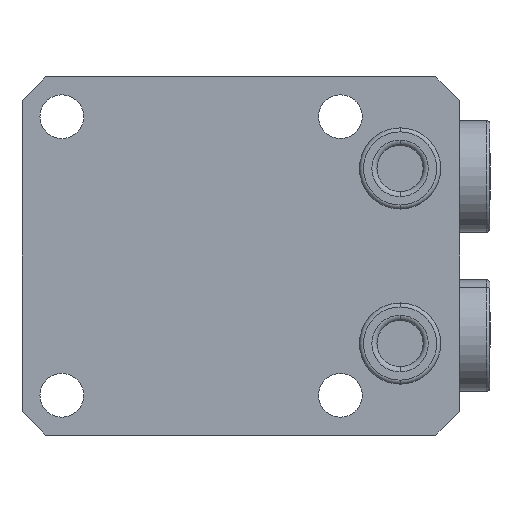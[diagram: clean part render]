
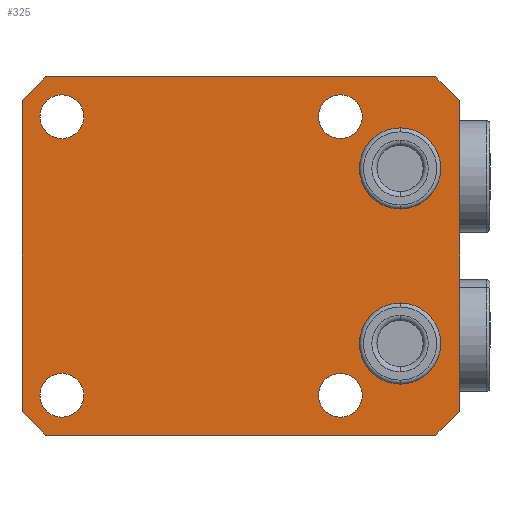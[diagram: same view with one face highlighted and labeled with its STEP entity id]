
A CAD part, front view. The second image highlights one B-rep face of the part: STEP entity #325.
In plain terms, the highlighted planar face has unit normal (0, -1, 0).
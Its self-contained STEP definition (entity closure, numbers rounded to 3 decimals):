
#325=ADVANCED_FACE('',(#770,#771,#772,#773,#774,#775,#776),#434,.F.);
#434=PLANE('',#2228);
#481=LINE('',#3083,#606);
#505=LINE('',#3280,#630);
#506=LINE('',#3283,#631);
#507=LINE('',#3285,#632);
#508=LINE('',#3287,#633);
#509=LINE('',#3288,#634);
#510=LINE('',#3290,#635);
#511=LINE('',#3292,#636);
#606=VECTOR('',#2427,1.);
#630=VECTOR('',#2573,1.);
#631=VECTOR('',#2574,1.);
#632=VECTOR('',#2575,1.);
#633=VECTOR('',#2576,1.);
#634=VECTOR('',#2577,1.);
#635=VECTOR('',#2578,1.);
#636=VECTOR('',#2579,1.);
#770=FACE_BOUND('',#831,.T.);
#771=FACE_BOUND('',#832,.T.);
#772=FACE_BOUND('',#833,.T.);
#773=FACE_BOUND('',#834,.T.);
#774=FACE_BOUND('',#835,.T.);
#775=FACE_BOUND('',#836,.T.);
#776=FACE_BOUND('',#837,.T.);
#831=EDGE_LOOP('',(#1044,#1045,#1046,#1047,#1048,#1049,#1050,#1051));
#832=EDGE_LOOP('',(#1052,#1053));
#833=EDGE_LOOP('',(#1054,#1055));
#834=EDGE_LOOP('',(#1056,#1057));
#835=EDGE_LOOP('',(#1058,#1059));
#836=EDGE_LOOP('',(#1060,#1061));
#837=EDGE_LOOP('',(#1062,#1063));
#1044=ORIENTED_EDGE('',*,*,#1815,.F.);
#1045=ORIENTED_EDGE('',*,*,#1816,.T.);
#1046=ORIENTED_EDGE('',*,*,#1817,.F.);
#1047=ORIENTED_EDGE('',*,*,#1818,.T.);
#1048=ORIENTED_EDGE('',*,*,#1738,.F.);
#1049=ORIENTED_EDGE('',*,*,#1819,.T.);
#1050=ORIENTED_EDGE('',*,*,#1820,.F.);
#1051=ORIENTED_EDGE('',*,*,#1821,.T.);
#1052=ORIENTED_EDGE('',*,*,#1787,.F.);
#1053=ORIENTED_EDGE('',*,*,#1822,.F.);
#1054=ORIENTED_EDGE('',*,*,#1783,.F.);
#1055=ORIENTED_EDGE('',*,*,#1823,.F.);
#1056=ORIENTED_EDGE('',*,*,#1795,.F.);
#1057=ORIENTED_EDGE('',*,*,#1824,.F.);
#1058=ORIENTED_EDGE('',*,*,#1799,.F.);
#1059=ORIENTED_EDGE('',*,*,#1825,.F.);
#1060=ORIENTED_EDGE('',*,*,#1826,.F.);
#1061=ORIENTED_EDGE('',*,*,#1777,.F.);
#1062=ORIENTED_EDGE('',*,*,#1757,.T.);
#1063=ORIENTED_EDGE('',*,*,#1827,.T.);
#1552=VERTEX_POINT('',#3082);
#1553=VERTEX_POINT('',#3084);
#1566=VERTEX_POINT('',#3120);
#1567=VERTEX_POINT('',#3122);
#1580=VERTEX_POINT('',#3159);
#1581=VERTEX_POINT('',#3161);
#1586=VERTEX_POINT('',#3174);
#1587=VERTEX_POINT('',#3175);
#1590=VERTEX_POINT('',#3183);
#1591=VERTEX_POINT('',#3184);
#1598=VERTEX_POINT('',#3206);
#1599=VERTEX_POINT('',#3207);
#1602=VERTEX_POINT('',#3215);
#1603=VERTEX_POINT('',#3216);
#1618=VERTEX_POINT('',#3281);
#1619=VERTEX_POINT('',#3282);
#1620=VERTEX_POINT('',#3284);
#1621=VERTEX_POINT('',#3286);
#1622=VERTEX_POINT('',#3289);
#1623=VERTEX_POINT('',#3291);
#1738=EDGE_CURVE('',#1552,#1553,#481,.T.);
#1757=EDGE_CURVE('',#1567,#1566,#2043,.T.);
#1777=EDGE_CURVE('',#1580,#1581,#2059,.T.);
#1783=EDGE_CURVE('',#1586,#1587,#2062,.T.);
#1787=EDGE_CURVE('',#1590,#1591,#2064,.T.);
#1795=EDGE_CURVE('',#1598,#1599,#2067,.T.);
#1799=EDGE_CURVE('',#1602,#1603,#2069,.T.);
#1815=EDGE_CURVE('',#1618,#1619,#505,.T.);
#1816=EDGE_CURVE('',#1618,#1620,#506,.T.);
#1817=EDGE_CURVE('',#1621,#1620,#507,.T.);
#1818=EDGE_CURVE('',#1621,#1553,#508,.T.);
#1819=EDGE_CURVE('',#1552,#1622,#509,.T.);
#1820=EDGE_CURVE('',#1623,#1622,#510,.T.);
#1821=EDGE_CURVE('',#1623,#1619,#511,.T.);
#1822=EDGE_CURVE('',#1591,#1590,#2072,.T.);
#1823=EDGE_CURVE('',#1587,#1586,#2073,.T.);
#1824=EDGE_CURVE('',#1599,#1598,#2074,.T.);
#1825=EDGE_CURVE('',#1603,#1602,#2075,.T.);
#1826=EDGE_CURVE('',#1581,#1580,#2076,.T.);
#1827=EDGE_CURVE('',#1566,#1567,#2077,.T.);
#2043=CIRCLE('',#2180,5.1);
#2059=CIRCLE('',#2201,5.1);
#2062=CIRCLE('',#2206,2.75);
#2064=CIRCLE('',#2209,2.75);
#2067=CIRCLE('',#2214,2.75);
#2069=CIRCLE('',#2217,2.75);
#2072=CIRCLE('',#2222,2.75);
#2073=CIRCLE('',#2223,2.75);
#2074=CIRCLE('',#2224,2.75);
#2075=CIRCLE('',#2225,2.75);
#2076=CIRCLE('',#2226,5.1);
#2077=CIRCLE('',#2227,5.1);
#2180=AXIS2_PLACEMENT_3D('',#3121,#2470,#2471);
#2201=AXIS2_PLACEMENT_3D('',#3160,#2516,#2517);
#2206=AXIS2_PLACEMENT_3D('',#3173,#2529,#2530);
#2209=AXIS2_PLACEMENT_3D('',#3182,#2537,#2538);
#2214=AXIS2_PLACEMENT_3D('',#3205,#2551,#2552);
#2217=AXIS2_PLACEMENT_3D('',#3214,#2559,#2560);
#2222=AXIS2_PLACEMENT_3D('',#3293,#2580,#2581);
#2223=AXIS2_PLACEMENT_3D('',#3294,#2582,#2583);
#2224=AXIS2_PLACEMENT_3D('',#3295,#2584,#2585);
#2225=AXIS2_PLACEMENT_3D('',#3296,#2586,#2587);
#2226=AXIS2_PLACEMENT_3D('',#3297,#2588,#2589);
#2227=AXIS2_PLACEMENT_3D('',#3298,#2590,#2591);
#2228=AXIS2_PLACEMENT_3D('',#3299,#2592,#2593);
#2427=DIRECTION('',(0.,0.,-1.));
#2470=DIRECTION('',(0.,1.,0.));
#2471=DIRECTION('',(0.,0.,1.));
#2516=DIRECTION('',(0.,-1.,0.));
#2517=DIRECTION('',(0.,0.,-1.));
#2529=DIRECTION('',(0.,-1.,0.));
#2530=DIRECTION('',(0.,0.,1.));
#2537=DIRECTION('',(0.,-1.,0.));
#2538=DIRECTION('',(0.,0.,1.));
#2551=DIRECTION('',(0.,-1.,0.));
#2552=DIRECTION('',(0.,0.,1.));
#2559=DIRECTION('',(0.,-1.,0.));
#2560=DIRECTION('',(0.,0.,1.));
#2573=DIRECTION('',(0.,0.,1.));
#2574=DIRECTION('',(0.707,0.,-0.707));
#2575=DIRECTION('',(-1.,0.,0.));
#2576=DIRECTION('',(0.707,0.,0.707));
#2577=DIRECTION('',(-0.707,0.,0.707));
#2578=DIRECTION('',(1.,0.,0.));
#2579=DIRECTION('',(-0.707,0.,-0.707));
#2580=DIRECTION('',(0.,-1.,0.));
#2581=DIRECTION('',(0.,0.,1.));
#2582=DIRECTION('',(0.,-1.,0.));
#2583=DIRECTION('',(0.,0.,1.));
#2584=DIRECTION('',(0.,-1.,0.));
#2585=DIRECTION('',(0.,0.,1.));
#2586=DIRECTION('',(0.,-1.,0.));
#2587=DIRECTION('',(0.,0.,1.));
#2588=DIRECTION('',(0.,-1.,0.));
#2589=DIRECTION('',(0.,0.,-1.));
#2590=DIRECTION('',(0.,1.,0.));
#2591=DIRECTION('',(0.,0.,1.));
#2592=DIRECTION('',(0.,1.,0.));
#2593=DIRECTION('',(0.,0.,1.));
#3082=CARTESIAN_POINT('',(32.5,0.,19.5));
#3083=CARTESIAN_POINT('',(32.5,0.,-22.5));
#3084=CARTESIAN_POINT('',(32.5,0.,-19.5));
#3120=CARTESIAN_POINT('',(25.,0.,16.1));
#3121=CARTESIAN_POINT('',(25.,0.,11.));
#3122=CARTESIAN_POINT('',(25.,0.,5.9));
#3159=CARTESIAN_POINT('',(25.,0.,-5.9));
#3160=CARTESIAN_POINT('',(25.,0.,-11.));
#3161=CARTESIAN_POINT('',(25.,0.,-16.1));
#3173=CARTESIAN_POINT('',(-17.5,0.,-17.5));
#3174=CARTESIAN_POINT('',(-17.5,0.,-14.75));
#3175=CARTESIAN_POINT('',(-17.5,0.,-20.25));
#3182=CARTESIAN_POINT('',(17.5,0.,-17.5));
#3183=CARTESIAN_POINT('',(17.5,0.,-14.75));
#3184=CARTESIAN_POINT('',(17.5,0.,-20.25));
#3205=CARTESIAN_POINT('',(17.5,0.,17.5));
#3206=CARTESIAN_POINT('',(17.5,0.,20.25));
#3207=CARTESIAN_POINT('',(17.5,0.,14.75));
#3214=CARTESIAN_POINT('',(-17.5,0.,17.5));
#3215=CARTESIAN_POINT('',(-17.5,0.,20.25));
#3216=CARTESIAN_POINT('',(-17.5,0.,14.75));
#3280=CARTESIAN_POINT('',(-22.5,0.,-22.5));
#3281=CARTESIAN_POINT('',(-22.5,0.,-19.5));
#3282=CARTESIAN_POINT('',(-22.5,0.,19.5));
#3283=CARTESIAN_POINT('',(-22.5,0.,-19.5));
#3284=CARTESIAN_POINT('',(-19.5,0.,-22.5));
#3285=CARTESIAN_POINT('',(-22.5,0.,-22.5));
#3286=CARTESIAN_POINT('',(29.5,0.,-22.5));
#3287=CARTESIAN_POINT('',(29.5,0.,-22.5));
#3288=CARTESIAN_POINT('',(32.5,0.,19.5));
#3289=CARTESIAN_POINT('',(29.5,0.,22.5));
#3290=CARTESIAN_POINT('',(-22.5,0.,22.5));
#3291=CARTESIAN_POINT('',(-19.5,0.,22.5));
#3292=CARTESIAN_POINT('',(-19.5,0.,22.5));
#3293=CARTESIAN_POINT('',(17.5,0.,-17.5));
#3294=CARTESIAN_POINT('',(-17.5,0.,-17.5));
#3295=CARTESIAN_POINT('',(17.5,0.,17.5));
#3296=CARTESIAN_POINT('',(-17.5,0.,17.5));
#3297=CARTESIAN_POINT('',(25.,0.,-11.));
#3298=CARTESIAN_POINT('',(25.,0.,11.));
#3299=CARTESIAN_POINT('',(-22.5,0.,22.5));
